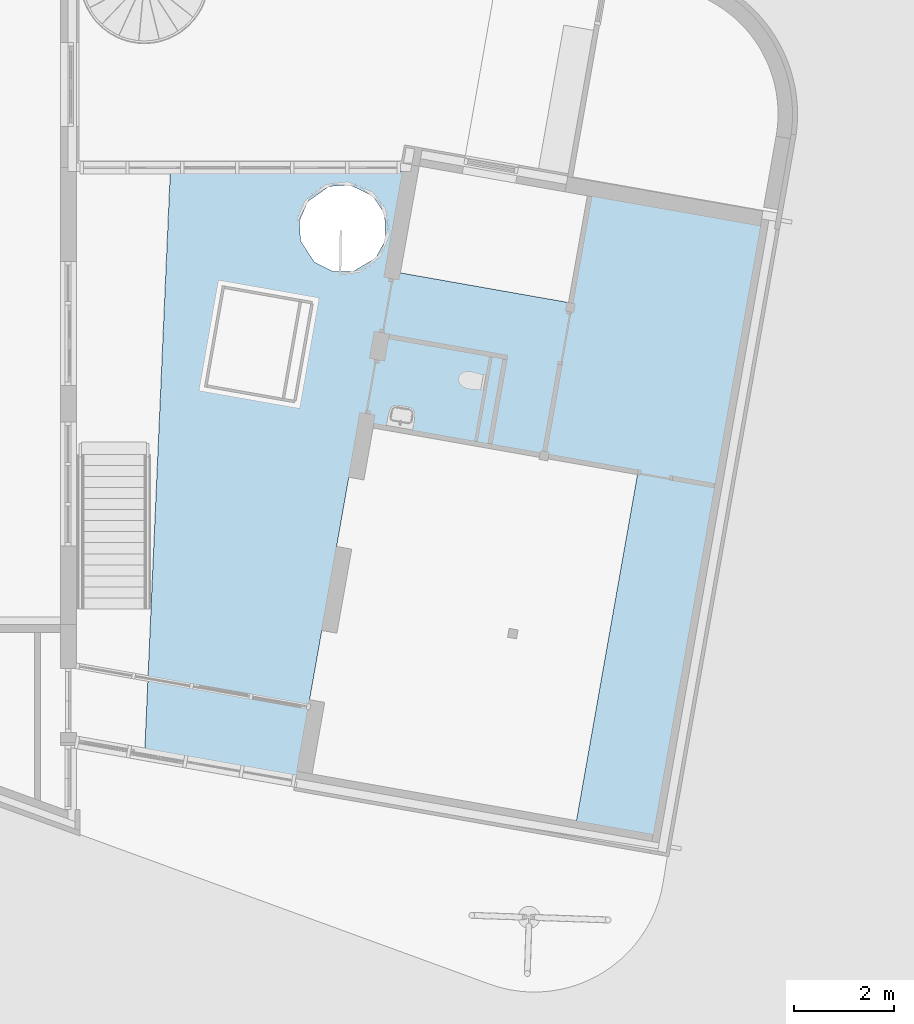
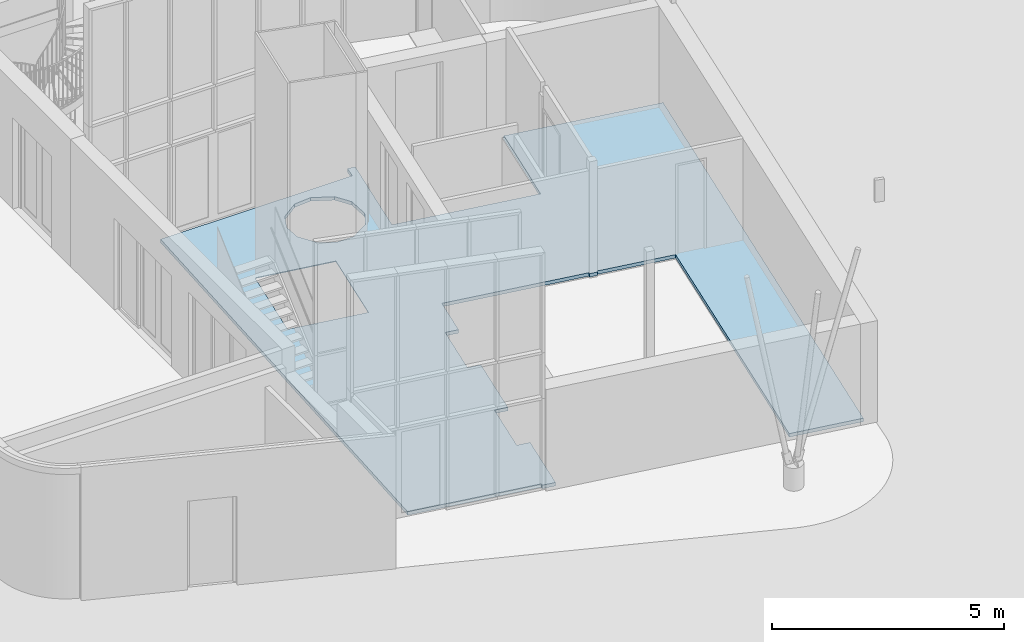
# One storey, part 15 of 21: 1 slab.
"""IFC2X3 building model written with IfcOpenShell, lengths in millimetres."""

from ifc_helpers import new_model, entity, si_unit, converted_unit, derived_unit, direction, origin, place, context, subcontext, project, spatial, faceted_brep, type_object, element, save


model = new_model("IFC2X3")

# Units and contexts
model_context = context("Model", 3, precision=0.01, world=origin(), true_north=direction((6.12303176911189e-17, 1.0)))
body_context = subcontext(model_context, "Body", "Model", "MODEL_VIEW")
ifc_project = project(units=[si_unit("LENGTHUNIT", "METRE", prefix="MILLI"), si_unit("AREAUNIT", "SQUARE_METRE"), si_unit("VOLUMEUNIT", "CUBIC_METRE"), converted_unit("PLANEANGLEUNIT", "DEGREE", entity("IfcRatioMeasure", 0.0174532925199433), si_unit("PLANEANGLEUNIT", "RADIAN"), dimensions=[0, 0, 0, 0, 0, 0, 0]), si_unit("MASSUNIT", "GRAM", prefix="KILO"), derived_unit("MASSDENSITYUNIT", [(si_unit("MASSUNIT", "GRAM", prefix="KILO"), 1), (si_unit("LENGTHUNIT", "METRE"), -3)]), derived_unit("MOMENTOFINERTIAUNIT", [(si_unit("LENGTHUNIT", "METRE"), 4)]), si_unit("TIMEUNIT", "SECOND"), si_unit("FREQUENCYUNIT", "HERTZ"), si_unit("THERMODYNAMICTEMPERATUREUNIT", "DEGREE_CELSIUS"), derived_unit("THERMALTRANSMITTANCEUNIT", [(si_unit("MASSUNIT", "GRAM", prefix="KILO"), 1), (si_unit("THERMODYNAMICTEMPERATUREUNIT", "KELVIN"), -1), (si_unit("TIMEUNIT", "SECOND"), -3)]), derived_unit("VOLUMETRICFLOWRATEUNIT", [(si_unit("LENGTHUNIT", "METRE"), 3), (si_unit("TIMEUNIT", "SECOND"), -1)]), si_unit("ELECTRICCURRENTUNIT", "AMPERE"), si_unit("ELECTRICVOLTAGEUNIT", "VOLT"), si_unit("POWERUNIT", "WATT"), si_unit("FORCEUNIT", "NEWTON", prefix="KILO"), si_unit("ILLUMINANCEUNIT", "LUX"), si_unit("LUMINOUSFLUXUNIT", "LUMEN"), si_unit("LUMINOUSINTENSITYUNIT", "CANDELA"), derived_unit("USERDEFINED", [(si_unit("MASSUNIT", "GRAM", prefix="KILO"), -1), (si_unit("LENGTHUNIT", "METRE"), -2), (si_unit("TIMEUNIT", "SECOND"), 3), (si_unit("LUMINOUSFLUXUNIT", "LUMEN"), 1)]), derived_unit("LINEARVELOCITYUNIT", [(si_unit("LENGTHUNIT", "METRE"), 1), (si_unit("TIMEUNIT", "SECOND"), -1)]), si_unit("PRESSUREUNIT", "PASCAL"), derived_unit("USERDEFINED", [(si_unit("LENGTHUNIT", "METRE"), -2), (si_unit("MASSUNIT", "GRAM", prefix="KILO"), 1), (si_unit("TIMEUNIT", "SECOND"), -2)]), derived_unit("LINEARFORCEUNIT", [(si_unit("MASSUNIT", "GRAM", prefix="KILO"), 1), (si_unit("LENGTHUNIT", "METRE"), 1), (si_unit("TIMEUNIT", "SECOND"), -2), (si_unit("LENGTHUNIT", "METRE"), -1)]), derived_unit("PLANARFORCEUNIT", [(si_unit("MASSUNIT", "GRAM", prefix="KILO"), 1), (si_unit("LENGTHUNIT", "METRE"), 1), (si_unit("TIMEUNIT", "SECOND"), -2), (si_unit("LENGTHUNIT", "METRE"), -2)])], contexts=[model_context])

# Site, building, storey
site_placement = place(None, origin())
site = spatial("IfcSite", under=ifc_project, at=site_placement, Name="<Kadaster Gemeente>;<Kadaster nummer>;<Kadaster sectie>", CompositionType="ELEMENT")
building_placement = place(site_placement, origin())
building = spatial("IfcBuilding", under=site, at=building_placement, Name="JRCZ Middelburg", CompositionType="ELEMENT")
storey_placement = place(building_placement, origin())
storey = spatial("IfcBuildingStorey", under=building, at=storey_placement, Name="00 begane grond", CompositionType="ELEMENT", Elevation=0.0)

# Slab
slab_type = type_object("IfcSlabType", Name="Floor:RBM_23_FL_gewapende druklaag gevlinderd", PredefinedType="FLOOR")
slab_placement = place(storey_placement, origin())
element("IfcSlab", 1, at=slab_placement, inside=storey, type_object=slab_type, Name="Floor:RBM_23_FL_gewapende druklaag gevlinderd", ObjectType="Floor:RBM_23_FL_gewapende druklaag gevlinderd", PredefinedType="FLOOR", context=body_context, shape_type="Brep", body=[
    faceted_brep([(24047.8035144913, 19314.432621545, -90.0), (24227.1237718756, 19282.8136219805, -90.0), (24005.3772465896, 19027.6233878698, -90.0), (23825.996481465, 17007.9077125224, -90.0), (23530.7408935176, 17671.3195445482, -90.0), (23432.0508540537, 17488.1292669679, -90.0), (23333.3608145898, 17304.9389893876, -90.0), (23111.4000119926, 17172.0306790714, -90.0), (22889.4392093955, 17039.1223687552, -90.0), (22213.537046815, 16514.1092138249, -90.0), (23280.7412035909, 13915.611368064, -90.0), (26593.6344847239, 13331.4588983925, -90.0), (27174.3428417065, 16417.5039084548, -90.0), (26770.8998802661, 13300.2022264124, -90.0), (28549.4626822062, 12986.5936175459, -90.0), (31170.5393751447, 18061.5483926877, -90.0), (27575.9910766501, 18695.364241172, -90.0), (28982.0513920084, 5650.01628147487, -90.0), (27307.8782118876, 5945.21818350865, -90.0), (26763.9539531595, 13260.8099162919, -90.0), (26586.6885576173, 13292.066588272, -90.0), (21822.8286470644, 14298.2917695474, -90.0), (22797.0594446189, 12934.6995697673, -90.0), (23098.4106170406, 12881.5632274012, -90.0), (22553.9519958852, 11555.9687155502, -90.0), (19803.9727533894, 14654.2705337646, -90.0), (22258.7500938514, 9881.79553542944, -90.0), (22560.1012662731, 9828.65919306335, -90.0), (22855.3031683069, 11502.8323731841, -90.0), (18732.6630344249, 7515.13930155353, -90.0), (22015.6426451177, 8503.06468121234, -90.0), (21747.7035069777, 6983.50631831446, -90.0), (22316.9938175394, 8449.92833884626, -90.0), (22039.1567332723, 6874.23593402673, -90.0), (21737.8055608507, 6927.37227639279, -90.0), (19241.0071984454, 19027.6233878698, -90.0), (22400.6049513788, 18728.3676740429, -90.0), (22190.1416612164, 18577.9136267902, -90.0), (20194.68115314, 16870.0879780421, -90.0), (21812.6302715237, 18046.2922420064, -90.0), (21896.1543212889, 18236.875910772, -90.0), (21979.6783710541, 18427.4595795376, -90.0), (21824.3250493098, 17844.1892356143, -90.0), (21836.019827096, 17642.0862292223, -90.0), (21974.0136636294, 17431.5012380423, -90.0), (22112.0075001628, 17220.9162468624, -90.0), (22292.6412812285, 17129.5169571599, -90.0), (22681.3571358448, 17038.6200181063, -90.0), (22473.2750622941, 17038.1176674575, -90.0), (23519.6282285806, 17929.7914492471, -90.0), (23508.5155636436, 18188.263353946, -90.0), (23394.4667055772, 18362.3071980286, -90.0), (23280.4178475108, 18536.3510421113, -90.0), (23047.868746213, 18649.7182874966, -90.0), (22815.3196449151, 18763.0855328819, -90.0), (22607.962298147, 18745.7266034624, -90.0), (22553.9519958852, 11555.9687155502, 0.0), (22560.1012662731, 9828.65919306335, 0.0), (22855.3031683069, 11502.8323731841, 0.0), (22258.7500938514, 9881.79553542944, 0.0), (19919.8183464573, 14735.3864912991, 0.0), (21741.7126895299, 14414.1373626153, 0.0), (22797.0594446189, 12934.6995697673, 0.0), (23280.7412035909, 13915.611368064, 0.0), (23098.4106170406, 12881.5632274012, 0.0), (22097.6914537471, 16432.9932562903, 0.0), (23825.996481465, 17007.9077125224, 0.0), (26593.6344847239, 13331.4588983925, 0.0), (27174.3428417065, 16417.5039084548, 0.0), (26770.8998802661, 13300.2022264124, 0.0), (26763.9539531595, 13260.8099162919, 0.0), (26586.6885576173, 13292.066588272, 0.0), (28549.4626822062, 12986.5936175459, 0.0), (31170.5393751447, 18061.5483926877, 0.0), (28982.0513920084, 5650.01628147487, 0.0), (27307.8782118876, 5945.21818350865, 0.0), (27575.9910766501, 18695.364241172, 0.0), (22889.4392093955, 17039.1223687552, 0.0), (23111.4000119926, 17172.0306790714, 0.0), (23333.3608145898, 17304.9389893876, 0.0), (23432.0508540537, 17488.1292669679, 0.0), (23530.7408935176, 17671.3195445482, 0.0), (24005.3772465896, 19027.6233878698, 0.0), (24227.1237718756, 19282.8136219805, 0.0), (24047.8035144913, 19314.432621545, 0.0), (23519.6282285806, 17929.7914492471, 0.0), (23508.5155636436, 18188.263353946, 0.0), (23394.4667055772, 18362.3071980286, 0.0), (23280.4178475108, 18536.3510421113, 0.0), (23047.868746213, 18649.7182874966, 0.0), (22815.3196449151, 18763.0855328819, 0.0), (22607.962298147, 18745.7266034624, 0.0), (22400.6049513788, 18728.3676740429, 0.0), (19241.0071984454, 19027.6233878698, 0.0), (18732.6630344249, 7515.13930155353, 0.0), (20275.7971106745, 16754.2423849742, 0.0), (21812.6302715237, 18046.2922420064, 0.0), (21915.5886631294, 18281.2208411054, 0.0), (22190.1416612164, 18577.9136267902, 0.0), (21979.6783710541, 18427.4595795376, 0.0), (22015.6426451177, 8503.06468121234, 0.0), (21747.7035069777, 6983.50631831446, 0.0), (22316.9938175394, 8449.92833884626, 0.0), (22039.1567332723, 6874.23593402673, 0.0), (21737.8055608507, 6927.37227639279, 0.0), (22681.3571358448, 17038.6200181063, 0.0), (22473.2750622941, 17038.1176674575, 0.0), (22244.2874557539, 17153.9836171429, 0.0), (22112.0075001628, 17220.9162468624, 0.0), (21974.0136636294, 17431.5012380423, 0.0), (21836.019827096, 17642.0862292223, 0.0), (21824.3250493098, 17844.1892356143, 0.0), (20275.7971106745, 16754.2423849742, -20.0), (22097.6914537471, 16432.9932562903, -20.0), (19919.8183464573, 14735.3864912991, -20.0), (21741.7126895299, 14414.1373626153, -20.0), (22213.537046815, 16514.1092138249, -20.0), (21822.8286470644, 14298.2917695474, -20.0), (20194.68115314, 16870.0879780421, -20.0), (19803.9727533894, 14654.2705337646, -20.0)], [[[0, 1, 2]], [[3, 2, 1]], [[2, 3, 4]], [[3, 5, 4]], [[3, 6, 5]], [[3, 7, 6]], [[3, 8, 7]], [[9, 8, 3]], [[9, 3, 10]], [[10, 3, 11]], [[3, 12, 11]], [[11, 12, 13]], [[13, 12, 14]], [[15, 14, 12]], [[16, 15, 12]], [[14, 15, 17]], [[18, 14, 17]], [[19, 11, 13]], [[20, 11, 19]], [[9, 10, 21]], [[22, 21, 10]], [[10, 23, 22]], [[22, 24, 21]], [[21, 24, 25]], [[25, 24, 26]], [[24, 27, 26]], [[24, 28, 27]], [[25, 26, 29]], [[30, 29, 26]], [[31, 29, 30]], [[30, 32, 31]], [[31, 32, 33]], [[34, 31, 33]], [[25, 29, 35]], [[2, 36, 35]], [[35, 36, 37]], [[35, 38, 25]], [[35, 39, 38]], [[35, 40, 39]], [[35, 41, 40]], [[35, 37, 41]], [[38, 39, 42]], [[38, 42, 43]], [[38, 43, 44]], [[38, 44, 45]], [[9, 45, 46]], [[38, 45, 9]], [[9, 47, 8]], [[9, 48, 47]], [[9, 46, 48]], [[2, 4, 49]], [[2, 49, 50]], [[2, 50, 51]], [[2, 51, 52]], [[2, 52, 53]], [[2, 53, 54]], [[2, 54, 55]], [[2, 55, 36]], [[56, 57, 58]], [[56, 59, 57]], [[56, 60, 59]], [[60, 56, 61]], [[56, 62, 61]], [[62, 63, 61]], [[63, 62, 64]], [[65, 61, 63]], [[66, 65, 63]], [[66, 63, 67]], [[66, 67, 68]], [[68, 67, 69]], [[70, 69, 67]], [[67, 71, 70]], [[69, 72, 68]], [[68, 72, 73]], [[74, 73, 72]], [[75, 74, 72]], [[76, 68, 73]], [[77, 65, 66]], [[66, 78, 77]], [[66, 79, 78]], [[66, 80, 79]], [[66, 81, 80]], [[82, 81, 66]], [[66, 83, 82]], [[84, 82, 83]], [[82, 85, 81]], [[82, 86, 85]], [[82, 87, 86]], [[82, 88, 87]], [[82, 89, 88]], [[82, 90, 89]], [[82, 91, 90]], [[82, 92, 91]], [[93, 92, 82]], [[94, 60, 93]], [[95, 93, 60]], [[96, 93, 95]], [[93, 96, 97]], [[93, 98, 92]], [[93, 99, 98]], [[93, 97, 99]], [[100, 59, 94]], [[94, 101, 100]], [[60, 94, 59]], [[101, 102, 100]], [[102, 101, 103]], [[101, 104, 103]], [[65, 77, 105]], [[65, 105, 106]], [[65, 106, 107]], [[65, 107, 108]], [[65, 108, 95]], [[95, 108, 109]], [[95, 109, 110]], [[95, 110, 111]], [[95, 111, 96]], [[17, 15, 73, 74]], [[35, 29, 94, 93]], [[2, 35, 93, 82]], [[0, 2, 82, 84]], [[1, 0, 84, 83]], [[43, 42, 39, 96, 111, 110]], [[44, 43, 110, 109, 108, 45]], [[106, 48, 46, 45, 108, 107]], [[8, 47, 48, 106, 105, 77]], [[49, 4, 81, 85, 86, 50]], [[78, 79, 6, 7, 8, 77]], [[4, 5, 6, 79, 80, 81]], [[87, 88, 52, 51, 50, 86]], [[54, 53, 52, 88, 89, 90]], [[98, 99, 41, 37, 36, 92]], [[96, 39, 40, 41, 99, 97]], [[36, 55, 54, 90, 91, 92]], [[18, 17, 74, 75]], [[34, 33, 103, 104]], [[14, 18, 75, 72]], [[13, 14, 72, 69]], [[10, 11, 67, 63]], [[19, 13, 69, 70]], [[20, 19, 70, 71]], [[11, 20, 71, 67]], [[23, 10, 63, 64]], [[27, 28, 58, 57]], [[33, 32, 102, 103]], [[3, 1, 83, 66]], [[22, 23, 64, 62]], [[24, 22, 62, 56]], [[30, 26, 59, 100]], [[28, 24, 56, 58]], [[26, 27, 57, 59]], [[32, 30, 100, 102]], [[31, 34, 104, 101]], [[29, 31, 101, 94]], [[112, 113, 65, 95]], [[114, 112, 95, 60]], [[115, 114, 60, 61]], [[113, 115, 61, 65]], [[115, 113, 116]], [[116, 117, 115]], [[114, 115, 117]], [[112, 116, 113]], [[114, 118, 112]], [[116, 112, 118]], [[118, 114, 119]], [[117, 119, 114]], [[116, 118, 38, 9]], [[117, 116, 9, 21]], [[117, 21, 25, 119]], [[118, 119, 25, 38]], [[12, 3, 66, 68]], [[16, 12, 68, 76]], [[15, 16, 76, 73]]]),
])

save(model, "model.ifc")
